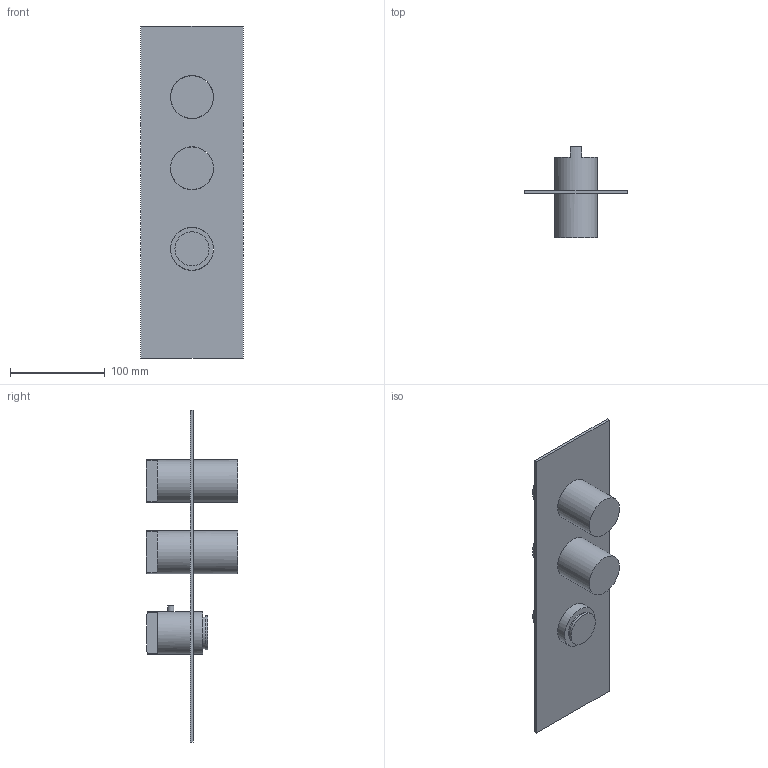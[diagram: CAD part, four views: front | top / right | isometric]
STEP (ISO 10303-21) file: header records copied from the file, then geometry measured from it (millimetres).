
FILE_DESCRIPTION(/* description */ (''),/* implementation_level */ '2;1');
FILE_NAME(/* name */ 'C:\Users\jacopo.barbieri\Desktop\STEP-DWG\EUA211CCNHJ_assieme_Semplifica_1.stp',/* time_stamp */ '2021-11-24T14:44:54+01:00',/* author */ ('jacopo.barbieri'),/* organization */ (''),/* preprocessor_version */ 'ST-DEVELOPER v18.1',/* originating_system */ 'Autodesk Inventor 2022',/* authorisation */ '');
FILE_SCHEMA (('AUTOMOTIVE_DESIGN { 1 0 10303 214 3 1 1 }'));
Length unit declared in the file: millimetre
Products named in the file (1): EUA211CCNHJ_assieme_Semplifica_1
Bounding box: 108 x 96.63 x 350 mm (x, y, z)
Volume: 467708.6 mm3; surface area: 114980.9 mm2
Topology: 4 solids, 4 shells, 45 faces, 100 edges, 67 vertices
Faces by surface type: plane 25, cylinder 12, bspline 8
Full cylindrical faces by diameter (mm): 6.8 x1, 33.3 x1, 36 x1, 45 x3, 45.5 x3
Entity records: 1496 total; most frequent: CARTESIAN_POINT 408, ORIENTED_EDGE 200, DIRECTION 181, EDGE_CURVE 100, VERTEX_POINT 67, AXIS2_PLACEMENT_3D 67, EDGE_LOOP 55, STYLED_ITEM 49
